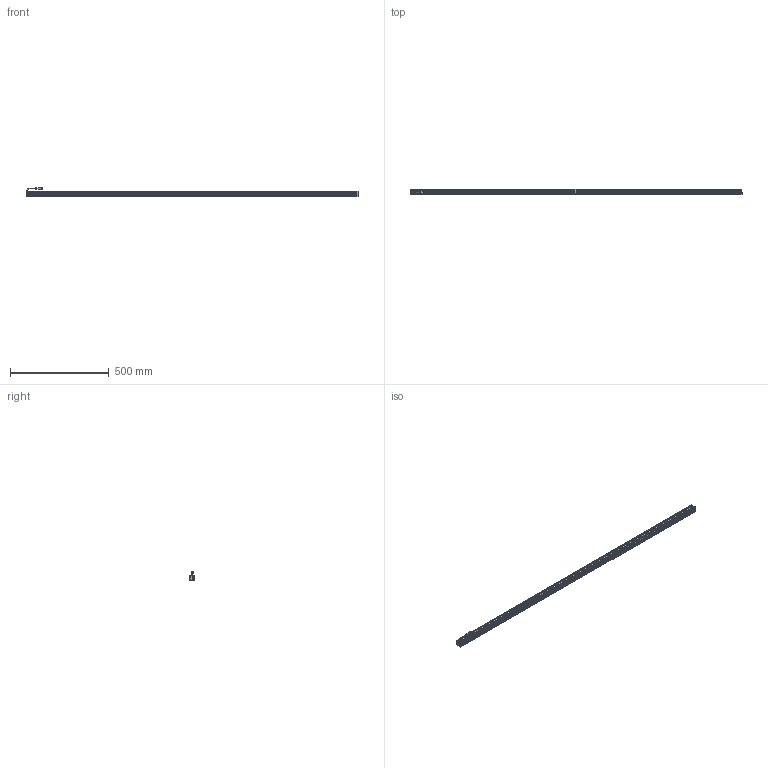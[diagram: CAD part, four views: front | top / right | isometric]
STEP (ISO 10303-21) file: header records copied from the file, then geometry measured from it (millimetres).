
FILE_DESCRIPTION (( 'STEP AP203' ), '1' );
FILE_NAME ('CK-BL167728.STEP', '2026-01-27T00:50:14', ( '' ), ( '' ), 'SwSTEP 2.0', 'SolidWorks 2022', '' );
FILE_SCHEMA (( 'CONFIG_CONTROL_DESIGN' ));
Length unit declared in the file: millimetre
Products named in the file (6): 光源线-01; CK-BL167728-003A; CK-BL167728; CK-BL167728-001A; 十字沉头螺丝 M2x10; CK-BL167728-002A
Assembly tree (11 placements, depth 2):
  CK-BL167728
    CK-BL167728-001A
    CK-BL167728-002A  x2
    CK-BL167728-003A
    光源线-01
    十字沉头螺丝 M2x10  x6
Bounding box: 1677 x 27 x 47.34 mm (x, y, z)
Volume: 531973.3 mm3; surface area: 465105.5 mm2
Topology: 13 solids, 13 shells, 575 faces, 1494 edges, 950 vertices
Faces by surface type: plane 337, cylinder 172, cone 46, bspline 20
Entity records: 13997 total; most frequent: CARTESIAN_POINT 2782, ORIENTED_EDGE 2202, DIRECTION 2163, EDGE_CURVE 1101, LINE 781, VECTOR 781, VERTEX_POINT 714, AXIS2_PLACEMENT_3D 691
